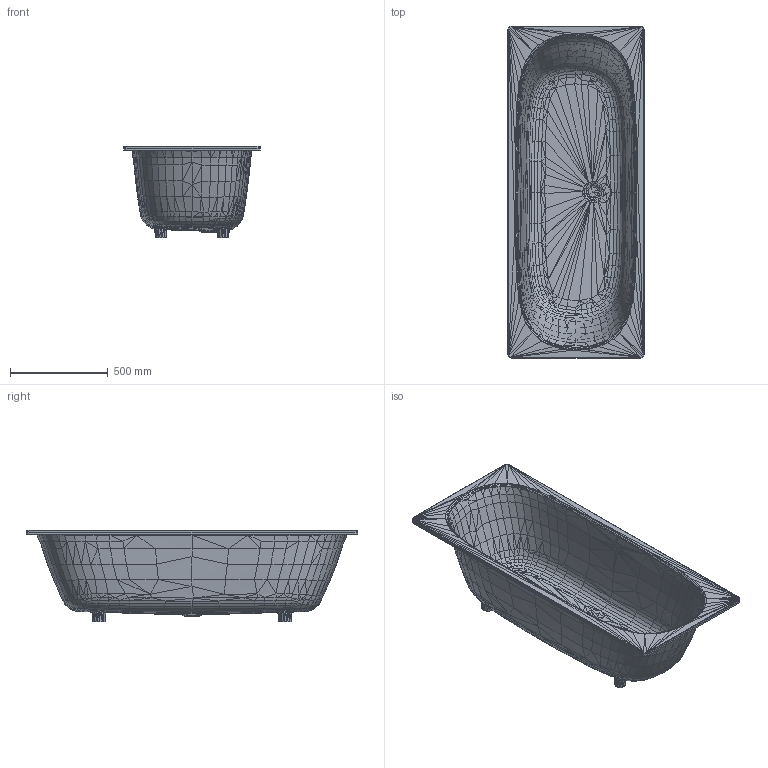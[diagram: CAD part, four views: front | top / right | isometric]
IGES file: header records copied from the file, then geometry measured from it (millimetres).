
Global section: file name: C:\Users\Sam Altman L JackSon\Downloads\Additional 2D and 3D files required for V+A NPD\Lussari 1700\Lussari 1700 - 3d igs.igs; native system: Rhinoceros ( Mar  4 2026 ); preprocessor: Trout Lake IGES 012 Mar  4 2026; date: 260508.112001; units: millimetre
Bounding box: 700 x 1700 x 470.02 mm (x, y, z)
Surface area: 4709990.6 mm2 (no closed solid volume)
Topology: 0 solids, 0 shells, 5094 faces, 16912 edges, 16912 vertices
Faces by surface type: bspline 5094
